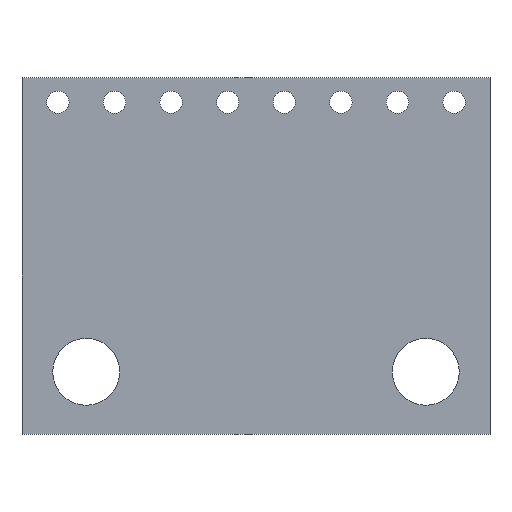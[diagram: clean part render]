
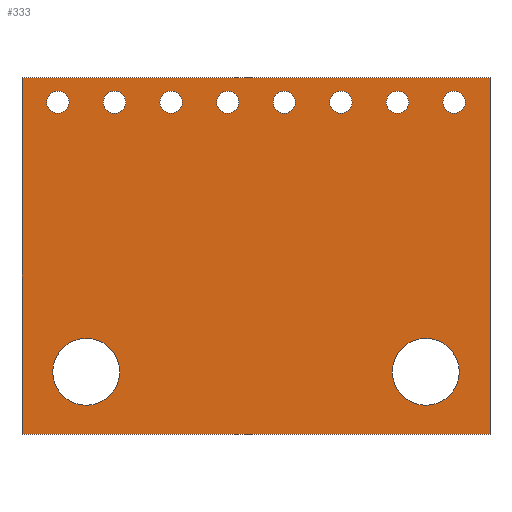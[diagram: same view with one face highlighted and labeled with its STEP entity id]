
A CAD part, top view. The second image highlights one B-rep face of the part: STEP entity #333.
In plain terms, the highlighted planar face has unit normal (0, 0, 1).
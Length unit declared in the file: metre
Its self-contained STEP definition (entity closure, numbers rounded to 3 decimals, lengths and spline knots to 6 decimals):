
#13=CIRCLE('',#345,0.0015);
#15=CIRCLE('',#348,0.0015);
#17=CIRCLE('',#351,0.0005);
#19=CIRCLE('',#354,0.0005);
#21=CIRCLE('',#357,0.0005);
#23=CIRCLE('',#360,0.0005);
#25=CIRCLE('',#363,0.0005);
#27=CIRCLE('',#366,0.0005);
#29=CIRCLE('',#369,0.0005);
#31=CIRCLE('',#372,0.0005);
#112=ORIENTED_EDGE('',*,*,#136,.F.);
#113=ORIENTED_EDGE('',*,*,#133,.F.);
#114=ORIENTED_EDGE('',*,*,#130,.F.);
#115=ORIENTED_EDGE('',*,*,#127,.F.);
#116=ORIENTED_EDGE('',*,*,#140,.T.);
#117=ORIENTED_EDGE('',*,*,#143,.T.);
#118=ORIENTED_EDGE('',*,*,#146,.T.);
#119=ORIENTED_EDGE('',*,*,#149,.T.);
#120=ORIENTED_EDGE('',*,*,#152,.T.);
#121=ORIENTED_EDGE('',*,*,#155,.T.);
#122=ORIENTED_EDGE('',*,*,#158,.T.);
#123=ORIENTED_EDGE('',*,*,#161,.T.);
#124=ORIENTED_EDGE('',*,*,#164,.T.);
#125=ORIENTED_EDGE('',*,*,#167,.T.);
#127=EDGE_CURVE('',#169,#170,#197,.T.);
#130=EDGE_CURVE('',#170,#172,#200,.T.);
#133=EDGE_CURVE('',#172,#174,#203,.T.);
#136=EDGE_CURVE('',#174,#169,#206,.T.);
#140=EDGE_CURVE('',#177,#177,#13,.T.);
#143=EDGE_CURVE('',#179,#179,#15,.T.);
#146=EDGE_CURVE('',#181,#181,#17,.T.);
#149=EDGE_CURVE('',#183,#183,#19,.T.);
#152=EDGE_CURVE('',#185,#185,#21,.T.);
#155=EDGE_CURVE('',#187,#187,#23,.T.);
#158=EDGE_CURVE('',#189,#189,#25,.T.);
#161=EDGE_CURVE('',#191,#191,#27,.T.);
#164=EDGE_CURVE('',#193,#193,#29,.T.);
#167=EDGE_CURVE('',#195,#195,#31,.T.);
#169=VERTEX_POINT('',#475);
#170=VERTEX_POINT('',#477);
#172=VERTEX_POINT('',#483);
#174=VERTEX_POINT('',#489);
#177=VERTEX_POINT('',#500);
#179=VERTEX_POINT('',#506);
#181=VERTEX_POINT('',#512);
#183=VERTEX_POINT('',#518);
#185=VERTEX_POINT('',#524);
#187=VERTEX_POINT('',#530);
#189=VERTEX_POINT('',#536);
#191=VERTEX_POINT('',#542);
#193=VERTEX_POINT('',#548);
#195=VERTEX_POINT('',#554);
#197=LINE('',#476,#219);
#200=LINE('',#482,#222);
#203=LINE('',#488,#225);
#206=LINE('',#494,#228);
#219=VECTOR('',#380,1.);
#222=VECTOR('',#385,1.);
#225=VECTOR('',#390,1.);
#228=VECTOR('',#395,1.);
#265=EDGE_LOOP('',(#112,#113,#114,#115));
#266=EDGE_LOOP('',(#116));
#267=EDGE_LOOP('',(#117));
#268=EDGE_LOOP('',(#118));
#269=EDGE_LOOP('',(#119));
#270=EDGE_LOOP('',(#120));
#271=EDGE_LOOP('',(#121));
#272=EDGE_LOOP('',(#122));
#273=EDGE_LOOP('',(#123));
#274=EDGE_LOOP('',(#124));
#275=EDGE_LOOP('',(#125));
#301=FACE_BOUND('',#265,.T.);
#302=FACE_BOUND('',#266,.T.);
#303=FACE_BOUND('',#267,.T.);
#304=FACE_BOUND('',#268,.T.);
#305=FACE_BOUND('',#269,.T.);
#306=FACE_BOUND('',#270,.T.);
#307=FACE_BOUND('',#271,.T.);
#308=FACE_BOUND('',#272,.T.);
#309=FACE_BOUND('',#273,.T.);
#310=FACE_BOUND('',#274,.T.);
#311=FACE_BOUND('',#275,.T.);
#317=PLANE('',#374);
#333=ADVANCED_FACE('',(#301,#302,#303,#304,#305,#306,#307,#308,#309,#310,
#311),#317,.F.);
#345=AXIS2_PLACEMENT_3D('',#501,#402,#403);
#348=AXIS2_PLACEMENT_3D('',#507,#409,#410);
#351=AXIS2_PLACEMENT_3D('',#513,#416,#417);
#354=AXIS2_PLACEMENT_3D('',#519,#423,#424);
#357=AXIS2_PLACEMENT_3D('',#525,#430,#431);
#360=AXIS2_PLACEMENT_3D('',#531,#437,#438);
#363=AXIS2_PLACEMENT_3D('',#537,#444,#445);
#366=AXIS2_PLACEMENT_3D('',#543,#451,#452);
#369=AXIS2_PLACEMENT_3D('',#549,#458,#459);
#372=AXIS2_PLACEMENT_3D('',#555,#465,#466);
#374=AXIS2_PLACEMENT_3D('',#557,#469,#470);
#380=DIRECTION('',(0.,1.,0.));
#385=DIRECTION('',(1.,0.,0.));
#390=DIRECTION('',(0.,-1.,0.));
#395=DIRECTION('',(-1.,0.,0.));
#402=DIRECTION('',(0.,0.,-1.));
#403=DIRECTION('',(1.,0.,0.));
#409=DIRECTION('',(0.,0.,-1.));
#410=DIRECTION('',(1.,0.,0.));
#416=DIRECTION('',(0.,0.,-1.));
#417=DIRECTION('',(1.,0.,0.));
#423=DIRECTION('',(0.,0.,-1.));
#424=DIRECTION('',(1.,0.,0.));
#430=DIRECTION('',(0.,0.,-1.));
#431=DIRECTION('',(1.,0.,0.));
#437=DIRECTION('',(0.,0.,-1.));
#438=DIRECTION('',(1.,0.,0.));
#444=DIRECTION('',(0.,0.,-1.));
#445=DIRECTION('',(1.,0.,0.));
#451=DIRECTION('',(0.,0.,-1.));
#452=DIRECTION('',(1.,0.,0.));
#458=DIRECTION('',(0.,0.,-1.));
#459=DIRECTION('',(1.,0.,0.));
#465=DIRECTION('',(0.,0.,-1.));
#466=DIRECTION('',(1.,0.,0.));
#469=DIRECTION('',(0.,0.,-1.));
#470=DIRECTION('',(1.,0.,0.));
#475=CARTESIAN_POINT('',(-0.032688,-0.008,-0.0284));
#476=CARTESIAN_POINT('',(-0.032688,-0.008,-0.0284));
#477=CARTESIAN_POINT('',(-0.032688,0.008,-0.0284));
#482=CARTESIAN_POINT('',(-0.032688,0.008,-0.0284));
#483=CARTESIAN_POINT('',(-0.011688,0.008,-0.0284));
#488=CARTESIAN_POINT('',(-0.011688,0.008,-0.0284));
#489=CARTESIAN_POINT('',(-0.011688,-0.008,-0.0284));
#494=CARTESIAN_POINT('',(-0.011688,-0.008,-0.0284));
#500=CARTESIAN_POINT('',(-0.013068,-0.0052,-0.0284));
#501=CARTESIAN_POINT('',(-0.014568,-0.0052,-0.0284));
#506=CARTESIAN_POINT('',(-0.028308,-0.0052,-0.0284));
#507=CARTESIAN_POINT('',(-0.029808,-0.0052,-0.0284));
#512=CARTESIAN_POINT('',(-0.012798,0.0069,-0.0284));
#513=CARTESIAN_POINT('',(-0.013298,0.0069,-0.0284));
#518=CARTESIAN_POINT('',(-0.015338,0.0069,-0.0284));
#519=CARTESIAN_POINT('',(-0.015838,0.0069,-0.0284));
#524=CARTESIAN_POINT('',(-0.017878,0.0069,-0.0284));
#525=CARTESIAN_POINT('',(-0.018378,0.0069,-0.0284));
#530=CARTESIAN_POINT('',(-0.020418,0.0069,-0.0284));
#531=CARTESIAN_POINT('',(-0.020918,0.0069,-0.0284));
#536=CARTESIAN_POINT('',(-0.022958,0.0069,-0.0284));
#537=CARTESIAN_POINT('',(-0.023458,0.0069,-0.0284));
#542=CARTESIAN_POINT('',(-0.025498,0.0069,-0.0284));
#543=CARTESIAN_POINT('',(-0.025998,0.0069,-0.0284));
#548=CARTESIAN_POINT('',(-0.028038,0.0069,-0.0284));
#549=CARTESIAN_POINT('',(-0.028538,0.0069,-0.0284));
#554=CARTESIAN_POINT('',(-0.030578,0.0069,-0.0284));
#555=CARTESIAN_POINT('',(-0.031078,0.0069,-0.0284));
#557=CARTESIAN_POINT('',(-0.022188,0.000565,-0.0284));
